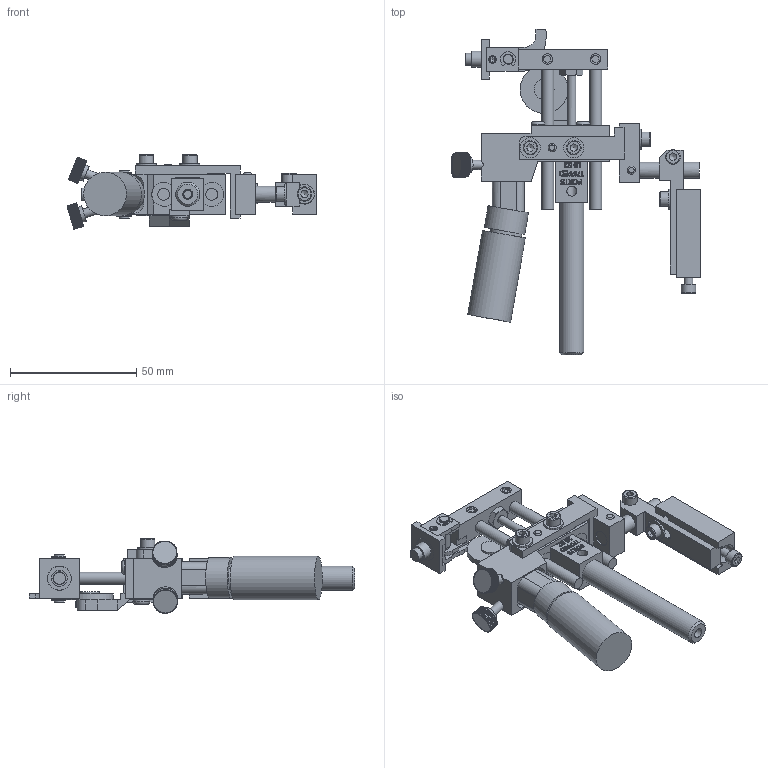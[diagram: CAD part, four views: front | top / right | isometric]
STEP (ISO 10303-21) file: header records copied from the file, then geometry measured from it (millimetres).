
FILE_DESCRIPTION((''),'2;1');
FILE_NAME('C:\Documents and Settings\Ron\My Documents\Inventor\Sprinter Drawing\Machines in Inventor\Model 22\Dot\3-sixth\Std\Brkt\90\Model 22 STD 3-16 dot 90 deg w brkt.stp','2009-01-14T08:36:02',('Ron'),(''),'Autodesk Inventor 2008','Autodesk Inventor 2008','');
FILE_SCHEMA(('AUTOMOTIVE_DESIGN { 1 0 10303 214 1 1 1 1 }'));
Length unit declared in the file: inch
Products named in the file (1): Model 22 STD 3-16 dot 90 deg w brkt
Bounding box: 99.17 x 129.2 x 29.56 mm (x, y, z)
Volume: 56618.8 mm3; surface area: 33844.5 mm2
Topology: 35 solids, 35 shells, 4735 faces, 13104 edges, 8697 vertices
Faces by surface type: plane 2892, bspline 1289, cylinder 484, cone 56, torus 14
Full cylindrical faces by diameter (mm): 2.845 x3, 2.946 x2, 3.175 x4, 3.505 x7, 3.556 x2, 3.658 x2, 3.876 x1, 3.962 x9, 4.064 x1, 4.166 x3, 4.648 x2, 4.699 x1, 4.75 x1, 4.763 x2, 4.775 x3, 4.788 x1, 5.41 x2, 5.74 x6, 6.096 x1, 6.325 x2, 6.35 x4, 6.477 x1, 6.655 x1, 7.925 x4, 7.938 x1, 8.128 x1, 9.462 x1, 9.525 x1, 10.922 x1, 11.938 x1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
Entity records: 165479 total; most frequent: CARTESIAN_POINT 49135, ORIENTED_EDGE 25656, DIRECTION 18351, EDGE_CURVE 12828, VECTOR 9049, LINE 9049, VERTEX_POINT 8599, EDGE_LOOP 5257
